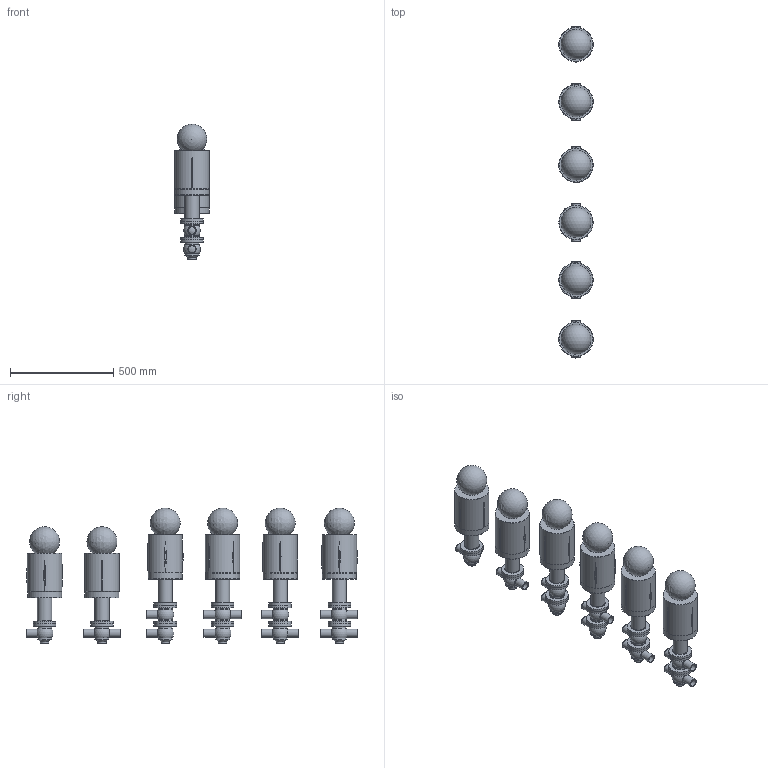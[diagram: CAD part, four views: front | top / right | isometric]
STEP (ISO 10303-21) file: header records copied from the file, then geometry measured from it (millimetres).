
FILE_DESCRIPTION(/* description */ (''),/* implementation_level */ '2;1');
FILE_NAME(/* name */ 'C:\Users\marz-m\Desktop\PDF\BBZQ 3D STEP\BBZQ-DN40-CIL.156.stp',/* time_stamp */ '2018-04-13T14:51:59+02:00',/* author */ ('marz-m'),/* organization */ (''),/* preprocessor_version */ 'ST-DEVELOPER v17',/* originating_system */ 'Autodesk Inventor 2018',/* authorisation */ '');
FILE_SCHEMA (('AUTOMOTIVE_DESIGN { 1 0 10303 214 3 1 1 }'));
Length unit declared in the file: millimetre
Products named in the file (8): BBZQ-CIL.156-DN40; COR-INF-L-BBZQ-DN40X2.5-SALD; COR-INF-T-BBZQ-DN40X2.5-SALD; assemblaggio dn40 per cil 108-156; CIL156; SAGOMA-GIOTTO-; CORPO-SUP-SUP-BBZQ-L-DN40-SALD; CORPO-SUP-SUP-BBZQ-T-DN40-SALD
Assembly tree (28 placements, depth 2):
  BBZQ-CIL.156-DN40
    COR-INF-L-BBZQ-DN40X2.5-SALD  x3
    COR-INF-T-BBZQ-DN40X2.5-SALD  x3
    assemblaggio dn40 per cil 108-156  x6
    CIL156  x6
    SAGOMA-GIOTTO-  x6
    CORPO-SUP-SUP-BBZQ-L-DN40-SALD  x2
    CORPO-SUP-SUP-BBZQ-T-DN40-SALD  x2
Bounding box: 172.04 x 1605.61 x 656.01 mm (x, y, z)
Volume: 45414357.1 mm3; surface area: 2284248.2 mm2
Topology: 28 solids, 28 shells, 380 faces, 891 edges, 648 vertices
Faces by surface type: cylinder 109, plane 106, cone 72, torus 38, sphere 31, bspline 24
Full cylindrical faces by diameter (mm): 20 x12, 35 x18, 40 x21, 68 x20, 69 x6, 109 x20, 164.5 x6, 166 x6
Entity records: 3820 total; most frequent: CARTESIAN_POINT 855, DIRECTION 657, ORIENTED_EDGE 476, AXIS2_PLACEMENT_3D 308, EDGE_CURVE 238, VERTEX_POINT 174, CIRCLE 171, EDGE_LOOP 132
